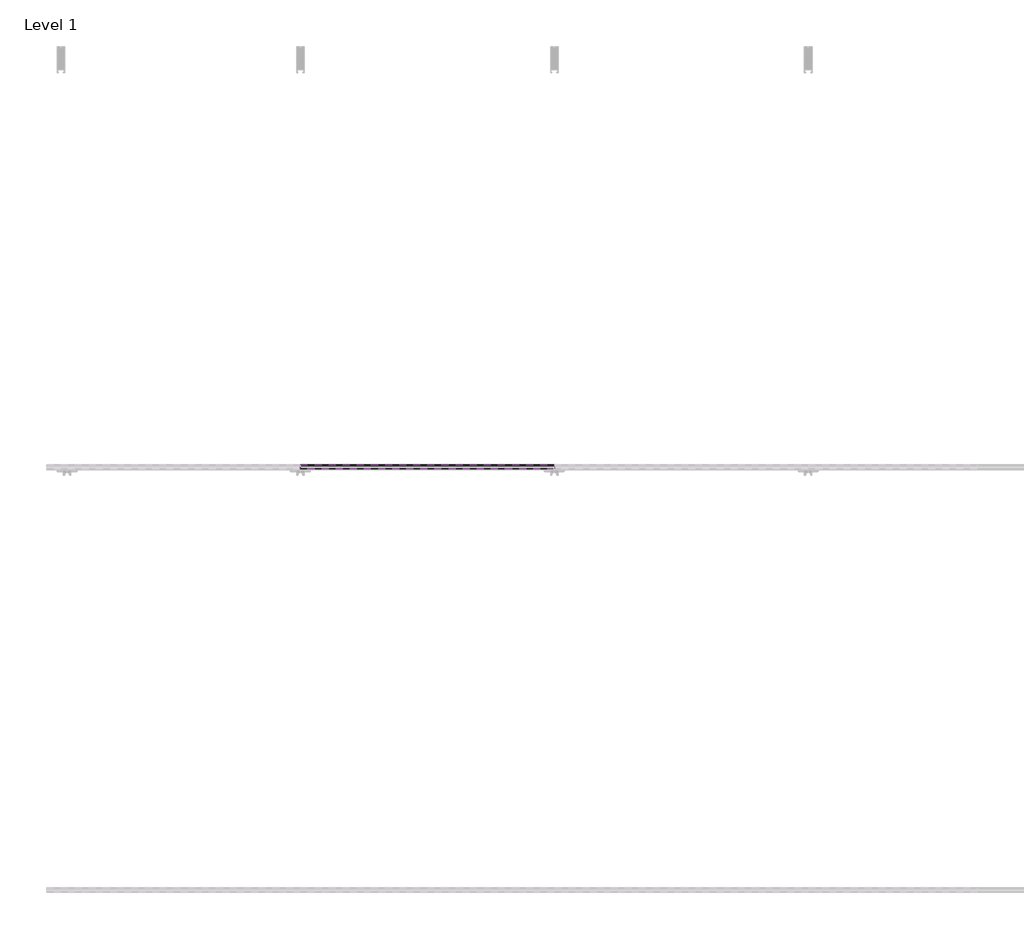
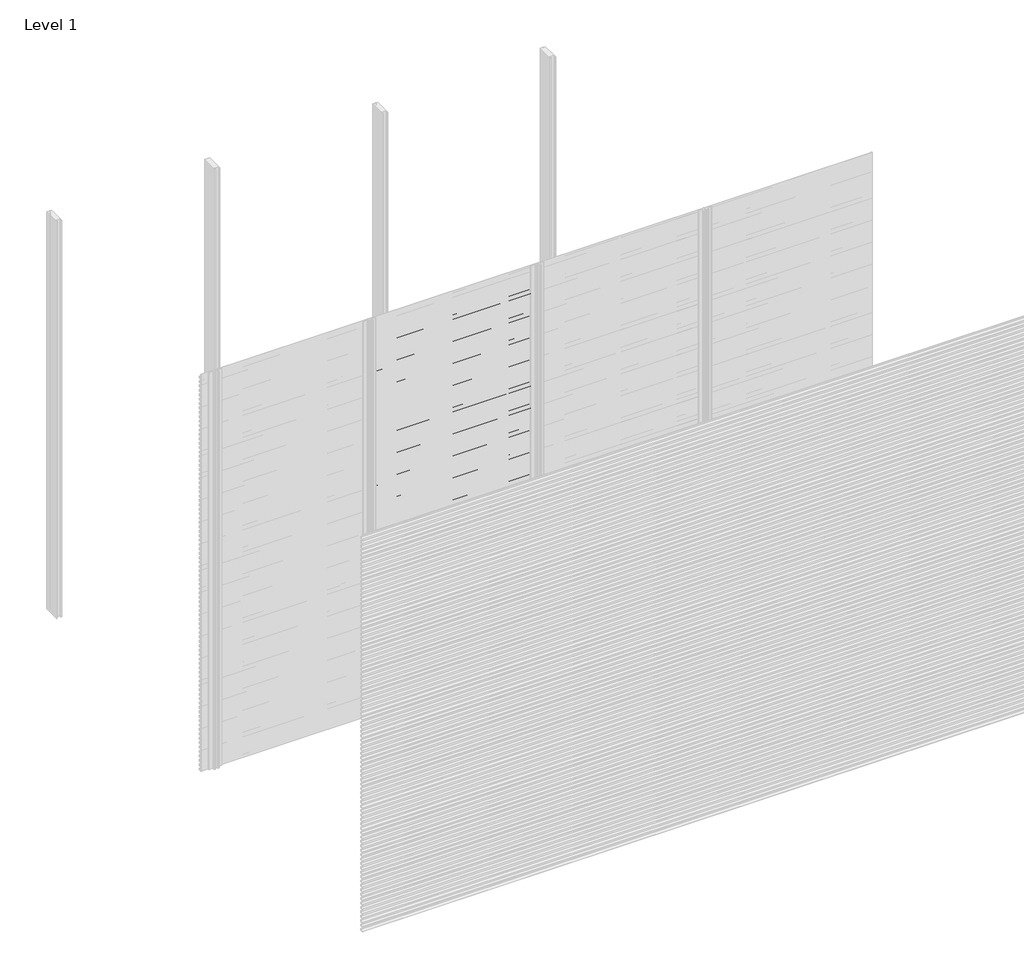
# One storey, part 6 of 77: 72 proxies.
"""IFC4 building model written with IfcOpenShell, lengths in millimetres."""

import ifcopenshell
import ifcopenshell.guid

model = None  # the IFC model being written
_history = None  # IfcOwnerHistory: only IFC2X3 demands one
_inside = {}  # id of a spatial element -> (the spatial element, [elements in it])
_under = {}  # id of a project, library or spatial element -> (it, [spatial elements below it])
_declared = {}  # id of a project -> (the project, [libraries it declares])
_typed = {}  # id of a type object -> (the type object, [elements of that type])
_made_of = {}  # id of a material, layer set ... -> (it, [elements and type objects made of it])


def new_model(schema):
    """Start an empty IFC model of exactly this schema.

    Asked for "IFC4X3", IfcOpenShell would pick the latest addendum, in which some entities
    have other attributes; the version numbers below select the first issue.
    IFC2X3 requires an IfcOwnerHistory on every rooted entity: one is made here for all.
    """
    global model, _history
    if schema == "IFC4X3":
        model = ifcopenshell.file(schema_version=(4, 3, 0, 0))
    else:
        model = ifcopenshell.file(schema=schema)
    _inside.clear()
    _under.clear()
    _declared.clear()
    _typed.clear()
    _made_of.clear()
    _history = None
    if model.schema == "IFC2X3":
        org = make("IfcOrganization", Name="unknown")
        user = make(
            "IfcPersonAndOrganization",
            ThePerson=make("IfcPerson", FamilyName="unknown"),
            TheOrganization=org,
        )
        app = make(
            "IfcApplication",
            ApplicationDeveloper=org,
            Version="unknown",
            ApplicationFullName="unknown",
            ApplicationIdentifier="unknown",
        )
        _history = make(
            "IfcOwnerHistory",
            OwningUser=user,
            OwningApplication=app,
            ChangeAction="ADDED",
            CreationDate=0,
        )
    return model


def make(cls, **values):
    """One entity of the class cls with the attributes given. An attribute that is None is left unset."""
    return model.create_entity(
        cls, **{name: value for name, value in values.items() if value is not None}
    )


def rooted(cls, **values):
    """An entity with a GlobalId (a new one), such as an element, a storey or a relation."""
    return make(cls, GlobalId=ifcopenshell.guid.new(), OwnerHistory=_history, **values)


def si_unit(unit_type, name, prefix=None):
    """IfcSIUnit, for example si_unit("LENGTHUNIT", "METRE", prefix="MILLI")."""
    return make("IfcSIUnit", UnitType=unit_type, Prefix=prefix, Name=name)


def assignment(units):
    """IfcUnitAssignment: the units of a project."""
    return None if units is None else make("IfcUnitAssignment", Units=units)


def point(xyz):
    """IfcCartesianPoint."""
    return None if xyz is None else make("IfcCartesianPoint", Coordinates=xyz)


def direction(xyz):
    """IfcDirection."""
    return None if xyz is None else make("IfcDirection", DirectionRatios=xyz)


def frame(location, z_axis=None, x_axis=None):
    """IfcAxis2Placement3D, a coordinate frame: its origin and axes. An axis left out is left unset."""
    return make(
        "IfcAxis2Placement3D",
        Location=point(location),
        Axis=direction(z_axis),
        RefDirection=direction(x_axis),
    )


def origin():
    """The frame at (0, 0, 0) with its axes left unset."""
    return frame((0.0, 0.0, 0.0))


def place(relative_to, where):
    """IfcLocalPlacement: puts the frame where relative to a parent placement (None: the world)."""
    return make(
        "IfcLocalPlacement", PlacementRelTo=relative_to, RelativePlacement=where
    )


def context(
    kind, dimensions, precision=None, world=None, true_north=None, identifier=None
):
    """IfcGeometricRepresentationContext, for example the 3D "Model" context."""
    return make(
        "IfcGeometricRepresentationContext",
        ContextIdentifier=identifier,
        ContextType=kind,
        CoordinateSpaceDimension=dimensions,
        Precision=precision,
        WorldCoordinateSystem=world,
        TrueNorth=true_north,
    )


def project(units=None, contexts=None):
    """IfcProject with its units and contexts."""
    return rooted(
        "IfcProject",
        Name="project",
        RepresentationContexts=contexts,
        UnitsInContext=assignment(units),
    )


def spatial(cls, under=None, at=None, **own):
    """A site, building, storey or space (cls), placed at a placement, below another one or the project."""
    s = rooted(cls, ObjectPlacement=at, **own)
    if under is not None:
        _under.setdefault(under.id(), (under, []))[1].append(s)
    return s


def polyline(points):
    """IfcPolyline through the points."""
    return make("IfcPolyline", Points=[point(p) for p in points])


def outline(outer, holes=None, kind="AREA"):
    """IfcArbitraryClosedProfileDef: a profile drawn as a closed curve; with holes, ...WithVoids."""
    if holes is None:
        return make("IfcArbitraryClosedProfileDef", ProfileType=kind, OuterCurve=outer)
    return make(
        "IfcArbitraryProfileDefWithVoids",
        ProfileType=kind,
        OuterCurve=outer,
        InnerCurves=holes,
    )


def extrude(swept, where, along, depth):
    """IfcExtrudedAreaSolid: the profile swept, set in the frame where, extruded along a direction by depth."""
    return make(
        "IfcExtrudedAreaSolid",
        SweptArea=swept,
        Position=where,
        ExtrudedDirection=direction(along),
        Depth=depth,
    )


def shape(context_of_items, identifier, shape_type, items):
    """IfcShapeRepresentation: the items that make up one representation, for example the "Body"."""
    return make(
        "IfcShapeRepresentation",
        ContextOfItems=context_of_items,
        RepresentationIdentifier=identifier,
        RepresentationType=shape_type,
        Items=items,
    )


def made_of(thing, what):
    """Note that an element or type object is made of a material, layer set ...; save() writes the relation."""
    if what is not None:
        _made_of.setdefault(what.id(), (what, []))[1].append(thing)
    return thing


def element(
    cls,
    number,
    at=None,
    inside=None,
    cuts=None,
    type_object=None,
    material=None,
    context=None,
    identifier="Body",
    shape_type=None,
    held_by="IfcProductDefinitionShape",
    body=None,
    shapes=None,
    **own,
):
    """One element of the class cls, such as IfcWall. Its Tag is "e" and its number.

    at: its placement. inside: the storey or other place that contains it. cuts: it is an
    opening in that element (IfcRelVoidsElement). A single representation is given by context,
    identifier, shape_type and body (its items); several are given by shapes. held_by: the class
    of the entity that holds the representations. save() writes the other relations.
    """
    e = rooted(cls, Tag="e%d" % number, ObjectPlacement=at, **own)
    if body is not None:
        shapes = [shape(context, identifier, shape_type, body)]
    if shapes is not None:
        e.Representation = make(held_by, Representations=shapes)
    if inside is not None:
        _inside.setdefault(inside.id(), (inside, []))[1].append(e)
    if cuts is not None:
        rooted(
            "IfcRelVoidsElement", RelatingBuildingElement=cuts, RelatedOpeningElement=e
        )
    if type_object is not None:
        _typed.setdefault(type_object.id(), (type_object, []))[1].append(e)
    return made_of(e, material)


def aggregate(whole, parts):
    """IfcRelAggregates: a whole, such as a stair, and the parts it consists of."""
    return rooted("IfcRelAggregates", RelatingObject=whole, RelatedObjects=parts)


def save(model, path):
    """Write the relations noted so far, then the file.

    IfcRelAggregates (storeys below a building ...), IfcRelContainedInSpatialStructure (elements
    in a storey), IfcRelDefinesByType, IfcRelAssociatesMaterial and IfcRelDeclares: one each for
    every whole, place, type object, material and project.
    """
    for whole, parts in _under.values():
        aggregate(whole, parts)
    for where, things in _inside.values():
        rooted(
            "IfcRelContainedInSpatialStructure",
            RelatedElements=things,
            RelatingStructure=where,
        )
    for kind, things in _typed.values():
        rooted("IfcRelDefinesByType", RelatedObjects=things, RelatingType=kind)
    for what, things in _made_of.values():
        rooted("IfcRelAssociatesMaterial", RelatedObjects=things, RelatingMaterial=what)
    for by, libraries in _declared.values():
        rooted("IfcRelDeclares", RelatingContext=by, RelatedDefinitions=libraries)
    model.write(path)


model = new_model("IFC4")

# Units and contexts
model_context = context("Model", 3, world=origin())
ifc_project = project(units=[si_unit("LENGTHUNIT", "METRE", prefix="MILLI")], contexts=[model_context])

# Site, building, storey
site = spatial("IfcSite", under=ifc_project)
building = spatial("IfcBuilding", under=site)
storey = spatial("IfcBuildingStorey", under=building, Name="Level 1", Elevation=0.0)

# Proxies
placement = place(None, origin())
element("IfcBuildingElementProxy", 1, Name="Wall Sweeps", at=placement, inside=storey, context=model_context, shape_type="SweptSolid", body=[
    extrude(outline(polyline([(-53978.6, 2806.0359887), (-53998.0, 2817.2366691), (-53998.0, 2830.5), (-53997.0, 2830.5), (-53997.0, 2817.8191057), (-53977.6, 2806.6185105), (-53977.6, 2793.0185105), (-53978.6, 2794.5953129), (-53978.6, 2800.4032062), (-53995.9773817, 2792.3), (-53996.4, 2793.2063078), (-53978.6, 2801.5065841), (-53978.6, 2806.0359887)])), frame((1200.0, 0.0, 0.0), z_axis=(1.0, 0.0, 0.0), x_axis=(0.0, 1.0, 0.0)), (0.0, 0.0, 1.0), 1200.0),
])
element("IfcBuildingElementProxy", 2, Name="Wall Sweeps", at=placement, inside=storey, context=model_context, shape_type="SweptSolid", body=[
    extrude(outline(polyline([(-53978.6, 2772.7359887), (-53998.0, 2783.9366691), (-53998.0, 2797.2), (-53997.0, 2797.2), (-53997.0, 2784.5191057), (-53977.6, 2773.3185105), (-53977.6, 2759.7185105), (-53978.6, 2761.2953129), (-53978.6, 2767.1032062), (-53995.9773817, 2759.0), (-53996.4, 2759.9063078), (-53978.6, 2768.2065841), (-53978.6, 2772.7359887)])), frame((1200.0, 0.0, 0.0), z_axis=(1.0, 0.0, 0.0), x_axis=(0.0, 1.0, 0.0)), (0.0, 0.0, 1.0), 1200.0),
])
element("IfcBuildingElementProxy", 3, Name="Wall Sweeps", at=placement, inside=storey, context=model_context, shape_type="SweptSolid", body=[
    extrude(outline(polyline([(-53978.6, 2739.4359887), (-53998.0, 2750.6366691), (-53998.0, 2763.9), (-53997.0, 2763.9), (-53997.0, 2751.2191057), (-53977.6, 2740.0185105), (-53977.6, 2726.4185105), (-53978.6, 2727.9953129), (-53978.6, 2733.8032062), (-53995.9773817, 2725.7), (-53996.4, 2726.6063078), (-53978.6, 2734.9065841), (-53978.6, 2739.4359887)])), frame((1200.0, 0.0, 0.0), z_axis=(1.0, 0.0, 0.0), x_axis=(0.0, 1.0, 0.0)), (0.0, 0.0, 1.0), 1200.0),
])
element("IfcBuildingElementProxy", 4, Name="Wall Sweeps", at=placement, inside=storey, context=model_context, shape_type="SweptSolid", body=[
    extrude(outline(polyline([(-53978.6, 2706.1359887), (-53998.0, 2717.3366691), (-53998.0, 2730.6), (-53997.0, 2730.6), (-53997.0, 2717.9191057), (-53977.6, 2706.7185105), (-53977.6, 2693.1185105), (-53978.6, 2694.6953129), (-53978.6, 2700.5032062), (-53995.9773817, 2692.4), (-53996.4, 2693.3063078), (-53978.6, 2701.6065841), (-53978.6, 2706.1359887)])), frame((1200.0, 0.0, 0.0), z_axis=(1.0, 0.0, 0.0), x_axis=(0.0, 1.0, 0.0)), (0.0, 0.0, 1.0), 1200.0),
])
element("IfcBuildingElementProxy", 5, Name="Wall Sweeps", at=placement, inside=storey, context=model_context, shape_type="SweptSolid", body=[
    extrude(outline(polyline([(-53978.6, 2672.8359887), (-53998.0, 2684.0366691), (-53998.0, 2697.3), (-53997.0, 2697.3), (-53997.0, 2684.6191057), (-53977.6, 2673.4185105), (-53977.6, 2659.8185105), (-53978.6, 2661.3953129), (-53978.6, 2667.2032062), (-53995.9773817, 2659.1), (-53996.4, 2660.0063078), (-53978.6, 2668.3065841), (-53978.6, 2672.8359887)])), frame((1200.0, 0.0, 0.0), z_axis=(1.0, 0.0, 0.0), x_axis=(0.0, 1.0, 0.0)), (0.0, 0.0, 1.0), 1200.0),
])
element("IfcBuildingElementProxy", 6, Name="Wall Sweeps", at=placement, inside=storey, context=model_context, shape_type="SweptSolid", body=[
    extrude(outline(polyline([(-53978.6, 2639.5359887), (-53998.0, 2650.7366691), (-53998.0, 2664.0), (-53997.0, 2664.0), (-53997.0, 2651.3191057), (-53977.6, 2640.1185105), (-53977.6, 2626.5185105), (-53978.6, 2628.0953129), (-53978.6, 2633.9032062), (-53995.9773817, 2625.8), (-53996.4, 2626.7063078), (-53978.6, 2635.0065841), (-53978.6, 2639.5359887)])), frame((1200.0, 0.0, 0.0), z_axis=(1.0, 0.0, 0.0), x_axis=(0.0, 1.0, 0.0)), (0.0, 0.0, 1.0), 1200.0),
])
element("IfcBuildingElementProxy", 7, Name="Wall Sweeps", at=placement, inside=storey, context=model_context, shape_type="SweptSolid", body=[
    extrude(outline(polyline([(-53978.6, 2606.2359887), (-53998.0, 2617.4366691), (-53998.0, 2630.7), (-53997.0, 2630.7), (-53997.0, 2618.0191057), (-53977.6, 2606.8185105), (-53977.6, 2593.2185105), (-53978.6, 2594.7953129), (-53978.6, 2600.6032062), (-53995.9773817, 2592.5), (-53996.4, 2593.4063078), (-53978.6, 2601.7065841), (-53978.6, 2606.2359887)])), frame((1200.0, 0.0, 0.0), z_axis=(1.0, 0.0, 0.0), x_axis=(0.0, 1.0, 0.0)), (0.0, 0.0, 1.0), 1200.0),
])
element("IfcBuildingElementProxy", 8, Name="Wall Sweeps", at=placement, inside=storey, context=model_context, shape_type="SweptSolid", body=[
    extrude(outline(polyline([(-53978.6, 2572.9359887), (-53998.0, 2584.1366691), (-53998.0, 2597.4), (-53997.0, 2597.4), (-53997.0, 2584.7191057), (-53977.6, 2573.5185105), (-53977.6, 2559.9185105), (-53978.6, 2561.4953129), (-53978.6, 2567.3032062), (-53995.9773817, 2559.2), (-53996.4, 2560.1063078), (-53978.6, 2568.4065841), (-53978.6, 2572.9359887)])), frame((1200.0, 0.0, 0.0), z_axis=(1.0, 0.0, 0.0), x_axis=(0.0, 1.0, 0.0)), (0.0, 0.0, 1.0), 1200.0),
])
element("IfcBuildingElementProxy", 9, Name="Wall Sweeps", at=placement, inside=storey, context=model_context, shape_type="SweptSolid", body=[
    extrude(outline(polyline([(-53978.6, 2539.6359887), (-53998.0, 2550.8366691), (-53998.0, 2564.1), (-53997.0, 2564.1), (-53997.0, 2551.4191057), (-53977.6, 2540.2185105), (-53977.6, 2526.6185105), (-53978.6, 2528.1953129), (-53978.6, 2534.0032062), (-53995.9773817, 2525.9), (-53996.4, 2526.8063078), (-53978.6, 2535.1065841), (-53978.6, 2539.6359887)])), frame((1200.0, 0.0, 0.0), z_axis=(1.0, 0.0, 0.0), x_axis=(0.0, 1.0, 0.0)), (0.0, 0.0, 1.0), 1200.0),
])
element("IfcBuildingElementProxy", 10, Name="Wall Sweeps", at=placement, inside=storey, context=model_context, shape_type="SweptSolid", body=[
    extrude(outline(polyline([(-53978.6, 2506.3359887), (-53998.0, 2517.5366691), (-53998.0, 2530.8), (-53997.0, 2530.8), (-53997.0, 2518.1191057), (-53977.6, 2506.9185105), (-53977.6, 2493.3185105), (-53978.6, 2494.8953129), (-53978.6, 2500.7032062), (-53995.9773817, 2492.6), (-53996.4, 2493.5063078), (-53978.6, 2501.8065841), (-53978.6, 2506.3359887)])), frame((1200.0, 0.0, 0.0), z_axis=(1.0, 0.0, 0.0), x_axis=(0.0, 1.0, 0.0)), (0.0, 0.0, 1.0), 1200.0),
])
element("IfcBuildingElementProxy", 11, Name="Wall Sweeps", at=placement, inside=storey, context=model_context, shape_type="SweptSolid", body=[
    extrude(outline(polyline([(-53978.6, 2473.0359887), (-53998.0, 2484.2366691), (-53998.0, 2497.5), (-53997.0, 2497.5), (-53997.0, 2484.8191057), (-53977.6, 2473.6185105), (-53977.6, 2460.0185105), (-53978.6, 2461.5953129), (-53978.6, 2467.4032062), (-53995.9773817, 2459.3), (-53996.4, 2460.2063078), (-53978.6, 2468.5065841), (-53978.6, 2473.0359887)])), frame((1200.0, 0.0, 0.0), z_axis=(1.0, 0.0, 0.0), x_axis=(0.0, 1.0, 0.0)), (0.0, 0.0, 1.0), 1200.0),
])
element("IfcBuildingElementProxy", 12, Name="Wall Sweeps", at=placement, inside=storey, context=model_context, shape_type="SweptSolid", body=[
    extrude(outline(polyline([(-53978.6, 2439.7359887), (-53998.0, 2450.9366691), (-53998.0, 2464.2), (-53997.0, 2464.2), (-53997.0, 2451.5191057), (-53977.6, 2440.3185105), (-53977.6, 2426.7185105), (-53978.6, 2428.2953129), (-53978.6, 2434.1032062), (-53995.9773817, 2426.0), (-53996.4, 2426.9063078), (-53978.6, 2435.2065841), (-53978.6, 2439.7359887)])), frame((1200.0, 0.0, 0.0), z_axis=(1.0, 0.0, 0.0), x_axis=(0.0, 1.0, 0.0)), (0.0, 0.0, 1.0), 1200.0),
])
element("IfcBuildingElementProxy", 13, Name="Wall Sweeps", at=placement, inside=storey, context=model_context, shape_type="SweptSolid", body=[
    extrude(outline(polyline([(-53978.6, 2406.4359887), (-53998.0, 2417.6366691), (-53998.0, 2430.9), (-53997.0, 2430.9), (-53997.0, 2418.2191057), (-53977.6, 2407.0185105), (-53977.6, 2393.4185105), (-53978.6, 2394.9953129), (-53978.6, 2400.8032062), (-53995.9773817, 2392.7), (-53996.4, 2393.6063078), (-53978.6, 2401.9065841), (-53978.6, 2406.4359887)])), frame((1200.0, 0.0, 0.0), z_axis=(1.0, 0.0, 0.0), x_axis=(0.0, 1.0, 0.0)), (0.0, 0.0, 1.0), 1200.0),
])
element("IfcBuildingElementProxy", 14, Name="Wall Sweeps", at=placement, inside=storey, context=model_context, shape_type="SweptSolid", body=[
    extrude(outline(polyline([(-53978.6, 2373.1359887), (-53998.0, 2384.3366691), (-53998.0, 2397.6), (-53997.0, 2397.6), (-53997.0, 2384.9191057), (-53977.6, 2373.7185105), (-53977.6, 2360.1185105), (-53978.6, 2361.6953129), (-53978.6, 2367.5032062), (-53995.9773817, 2359.4), (-53996.4, 2360.3063078), (-53978.6, 2368.6065841), (-53978.6, 2373.1359887)])), frame((1200.0, 0.0, 0.0), z_axis=(1.0, 0.0, 0.0), x_axis=(0.0, 1.0, 0.0)), (0.0, 0.0, 1.0), 1200.0),
])
element("IfcBuildingElementProxy", 15, Name="Wall Sweeps", at=placement, inside=storey, context=model_context, shape_type="SweptSolid", body=[
    extrude(outline(polyline([(-53978.6, 2339.8359887), (-53998.0, 2351.0366691), (-53998.0, 2364.3), (-53997.0, 2364.3), (-53997.0, 2351.6191057), (-53977.6, 2340.4185105), (-53977.6, 2326.8185105), (-53978.6, 2328.3953129), (-53978.6, 2334.2032062), (-53995.9773817, 2326.1), (-53996.4, 2327.0063078), (-53978.6, 2335.3065841), (-53978.6, 2339.8359887)])), frame((1200.0, 0.0, 0.0), z_axis=(1.0, 0.0, 0.0), x_axis=(0.0, 1.0, 0.0)), (0.0, 0.0, 1.0), 1200.0),
])
element("IfcBuildingElementProxy", 16, Name="Wall Sweeps", at=placement, inside=storey, context=model_context, shape_type="SweptSolid", body=[
    extrude(outline(polyline([(-53978.6, 2306.5359887), (-53998.0, 2317.7366691), (-53998.0, 2331.0), (-53997.0, 2331.0), (-53997.0, 2318.3191057), (-53977.6, 2307.1185105), (-53977.6, 2293.5185105), (-53978.6, 2295.0953129), (-53978.6, 2300.9032062), (-53995.9773817, 2292.8), (-53996.4, 2293.7063078), (-53978.6, 2302.0065841), (-53978.6, 2306.5359887)])), frame((1200.0, 0.0, 0.0), z_axis=(1.0, 0.0, 0.0), x_axis=(0.0, 1.0, 0.0)), (0.0, 0.0, 1.0), 1200.0),
])
element("IfcBuildingElementProxy", 17, Name="Wall Sweeps", at=placement, inside=storey, context=model_context, shape_type="SweptSolid", body=[
    extrude(outline(polyline([(-53978.6, 2273.2359887), (-53998.0, 2284.4366691), (-53998.0, 2297.7), (-53997.0, 2297.7), (-53997.0, 2285.0191057), (-53977.6, 2273.8185105), (-53977.6, 2260.2185105), (-53978.6, 2261.7953129), (-53978.6, 2267.6032062), (-53995.9773817, 2259.5), (-53996.4, 2260.4063078), (-53978.6, 2268.7065841), (-53978.6, 2273.2359887)])), frame((1200.0, 0.0, 0.0), z_axis=(1.0, 0.0, 0.0), x_axis=(0.0, 1.0, 0.0)), (0.0, 0.0, 1.0), 1200.0),
])
element("IfcBuildingElementProxy", 18, Name="Wall Sweeps", at=placement, inside=storey, context=model_context, shape_type="SweptSolid", body=[
    extrude(outline(polyline([(-53978.6, 2239.9359887), (-53998.0, 2251.1366691), (-53998.0, 2264.4), (-53997.0, 2264.4), (-53997.0, 2251.7191057), (-53977.6, 2240.5185105), (-53977.6, 2226.9185105), (-53978.6, 2228.4953129), (-53978.6, 2234.3032062), (-53995.9773817, 2226.2), (-53996.4, 2227.1063078), (-53978.6, 2235.4065841), (-53978.6, 2239.9359887)])), frame((1200.0, 0.0, 0.0), z_axis=(1.0, 0.0, 0.0), x_axis=(0.0, 1.0, 0.0)), (0.0, 0.0, 1.0), 1200.0),
])
element("IfcBuildingElementProxy", 19, Name="Wall Sweeps", at=placement, inside=storey, context=model_context, shape_type="SweptSolid", body=[
    extrude(outline(polyline([(-53978.6, 2206.6359887), (-53998.0, 2217.8366691), (-53998.0, 2231.1), (-53997.0, 2231.1), (-53997.0, 2218.4191057), (-53977.6, 2207.2185105), (-53977.6, 2193.6185105), (-53978.6, 2195.1953129), (-53978.6, 2201.0032062), (-53995.9773817, 2192.9), (-53996.4, 2193.8063078), (-53978.6, 2202.1065841), (-53978.6, 2206.6359887)])), frame((1200.0, 0.0, 0.0), z_axis=(1.0, 0.0, 0.0), x_axis=(0.0, 1.0, 0.0)), (0.0, 0.0, 1.0), 1200.0),
])
element("IfcBuildingElementProxy", 20, Name="Wall Sweeps", at=placement, inside=storey, context=model_context, shape_type="SweptSolid", body=[
    extrude(outline(polyline([(-53978.6, 2173.3359887), (-53998.0, 2184.5366691), (-53998.0, 2197.8), (-53997.0, 2197.8), (-53997.0, 2185.1191057), (-53977.6, 2173.9185105), (-53977.6, 2160.3185105), (-53978.6, 2161.8953129), (-53978.6, 2167.7032062), (-53995.9773817, 2159.6), (-53996.4, 2160.5063078), (-53978.6, 2168.8065841), (-53978.6, 2173.3359887)])), frame((1200.0, 0.0, 0.0), z_axis=(1.0, 0.0, 0.0), x_axis=(0.0, 1.0, 0.0)), (0.0, 0.0, 1.0), 1200.0),
])
element("IfcBuildingElementProxy", 21, Name="Wall Sweeps", at=placement, inside=storey, context=model_context, shape_type="SweptSolid", body=[
    extrude(outline(polyline([(-53978.6, 2140.0359887), (-53998.0, 2151.2366691), (-53998.0, 2164.5), (-53997.0, 2164.5), (-53997.0, 2151.8191057), (-53977.6, 2140.6185105), (-53977.6, 2127.0185105), (-53978.6, 2128.5953129), (-53978.6, 2134.4032062), (-53995.9773817, 2126.3), (-53996.4, 2127.2063078), (-53978.6, 2135.5065841), (-53978.6, 2140.0359887)])), frame((1200.0, 0.0, 0.0), z_axis=(1.0, 0.0, 0.0), x_axis=(0.0, 1.0, 0.0)), (0.0, 0.0, 1.0), 1200.0),
])
element("IfcBuildingElementProxy", 22, Name="Wall Sweeps", at=placement, inside=storey, context=model_context, shape_type="SweptSolid", body=[
    extrude(outline(polyline([(-53978.6, 2106.7359887), (-53998.0, 2117.9366691), (-53998.0, 2131.2), (-53997.0, 2131.2), (-53997.0, 2118.5191057), (-53977.6, 2107.3185105), (-53977.6, 2093.7185105), (-53978.6, 2095.2953129), (-53978.6, 2101.1032062), (-53995.9773817, 2093.0), (-53996.4, 2093.9063078), (-53978.6, 2102.2065841), (-53978.6, 2106.7359887)])), frame((1200.0, 0.0, 0.0), z_axis=(1.0, 0.0, 0.0), x_axis=(0.0, 1.0, 0.0)), (0.0, 0.0, 1.0), 1200.0),
])
element("IfcBuildingElementProxy", 23, Name="Wall Sweeps", at=placement, inside=storey, context=model_context, shape_type="SweptSolid", body=[
    extrude(outline(polyline([(-53978.6, 2073.4359887), (-53998.0, 2084.6366691), (-53998.0, 2097.9), (-53997.0, 2097.9), (-53997.0, 2085.2191057), (-53977.6, 2074.0185105), (-53977.6, 2060.4185105), (-53978.6, 2061.9953129), (-53978.6, 2067.8032062), (-53995.9773817, 2059.7), (-53996.4, 2060.6063078), (-53978.6, 2068.9065841), (-53978.6, 2073.4359887)])), frame((1200.0, 0.0, 0.0), z_axis=(1.0, 0.0, 0.0), x_axis=(0.0, 1.0, 0.0)), (0.0, 0.0, 1.0), 1200.0),
])
element("IfcBuildingElementProxy", 24, Name="Wall Sweeps", at=placement, inside=storey, context=model_context, shape_type="SweptSolid", body=[
    extrude(outline(polyline([(-53978.6, 2040.1359887), (-53998.0, 2051.3366691), (-53998.0, 2064.6), (-53997.0, 2064.6), (-53997.0, 2051.9191057), (-53977.6, 2040.7185105), (-53977.6, 2027.1185105), (-53978.6, 2028.6953129), (-53978.6, 2034.5032062), (-53995.9773817, 2026.4), (-53996.4, 2027.3063078), (-53978.6, 2035.6065841), (-53978.6, 2040.1359887)])), frame((1200.0, 0.0, 0.0), z_axis=(1.0, 0.0, 0.0), x_axis=(0.0, 1.0, 0.0)), (0.0, 0.0, 1.0), 1200.0),
])
element("IfcBuildingElementProxy", 25, Name="Wall Sweeps", at=placement, inside=storey, context=model_context, shape_type="SweptSolid", body=[
    extrude(outline(polyline([(-53978.6, 2006.8359887), (-53998.0, 2018.0366691), (-53998.0, 2031.3), (-53997.0, 2031.3), (-53997.0, 2018.6191057), (-53977.6, 2007.4185105), (-53977.6, 1993.8185105), (-53978.6, 1995.3953129), (-53978.6, 2001.2032062), (-53995.9773817, 1993.1), (-53996.4, 1994.0063078), (-53978.6, 2002.3065841), (-53978.6, 2006.8359887)])), frame((1200.0, 0.0, 0.0), z_axis=(1.0, 0.0, 0.0), x_axis=(0.0, 1.0, 0.0)), (0.0, 0.0, 1.0), 1200.0),
])
element("IfcBuildingElementProxy", 26, Name="Wall Sweeps", at=placement, inside=storey, context=model_context, shape_type="SweptSolid", body=[
    extrude(outline(polyline([(-53978.6, 1973.5359887), (-53998.0, 1984.7366691), (-53998.0, 1998.0), (-53997.0, 1998.0), (-53997.0, 1985.3191057), (-53977.6, 1974.1185105), (-53977.6, 1960.5185105), (-53978.6, 1962.0953129), (-53978.6, 1967.9032062), (-53995.9773817, 1959.8), (-53996.4, 1960.7063078), (-53978.6, 1969.0065841), (-53978.6, 1973.5359887)])), frame((1200.0, 0.0, 0.0), z_axis=(1.0, 0.0, 0.0), x_axis=(0.0, 1.0, 0.0)), (0.0, 0.0, 1.0), 1200.0),
])
element("IfcBuildingElementProxy", 27, Name="Wall Sweeps", at=placement, inside=storey, context=model_context, shape_type="SweptSolid", body=[
    extrude(outline(polyline([(-53978.6, 1940.2359887), (-53998.0, 1951.4366691), (-53998.0, 1964.7), (-53997.0, 1964.7), (-53997.0, 1952.0191057), (-53977.6, 1940.8185105), (-53977.6, 1927.2185105), (-53978.6, 1928.7953129), (-53978.6, 1934.6032062), (-53995.9773817, 1926.5), (-53996.4, 1927.4063078), (-53978.6, 1935.7065841), (-53978.6, 1940.2359887)])), frame((1200.0, 0.0, 0.0), z_axis=(1.0, 0.0, 0.0), x_axis=(0.0, 1.0, 0.0)), (0.0, 0.0, 1.0), 1200.0),
])
element("IfcBuildingElementProxy", 28, Name="Wall Sweeps", at=placement, inside=storey, context=model_context, shape_type="SweptSolid", body=[
    extrude(outline(polyline([(-53978.6, 1906.9359887), (-53998.0, 1918.1366691), (-53998.0, 1931.4), (-53997.0, 1931.4), (-53997.0, 1918.7191057), (-53977.6, 1907.5185105), (-53977.6, 1893.9185105), (-53978.6, 1895.4953129), (-53978.6, 1901.3032062), (-53995.9773817, 1893.2), (-53996.4, 1894.1063078), (-53978.6, 1902.4065841), (-53978.6, 1906.9359887)])), frame((1200.0, 0.0, 0.0), z_axis=(1.0, 0.0, 0.0), x_axis=(0.0, 1.0, 0.0)), (0.0, 0.0, 1.0), 1200.0),
])
element("IfcBuildingElementProxy", 29, Name="Wall Sweeps", at=placement, inside=storey, context=model_context, shape_type="SweptSolid", body=[
    extrude(outline(polyline([(-53978.6, 1873.6359887), (-53998.0, 1884.8366691), (-53998.0, 1898.1), (-53997.0, 1898.1), (-53997.0, 1885.4191057), (-53977.6, 1874.2185105), (-53977.6, 1860.6185105), (-53978.6, 1862.1953129), (-53978.6, 1868.0032062), (-53995.9773817, 1859.9), (-53996.4, 1860.8063078), (-53978.6, 1869.1065841), (-53978.6, 1873.6359887)])), frame((1200.0, 0.0, 0.0), z_axis=(1.0, 0.0, 0.0), x_axis=(0.0, 1.0, 0.0)), (0.0, 0.0, 1.0), 1200.0),
])
element("IfcBuildingElementProxy", 30, Name="Wall Sweeps", at=placement, inside=storey, context=model_context, shape_type="SweptSolid", body=[
    extrude(outline(polyline([(-53978.6, 1840.3359887), (-53998.0, 1851.5366691), (-53998.0, 1864.8), (-53997.0, 1864.8), (-53997.0, 1852.1191057), (-53977.6, 1840.9185105), (-53977.6, 1827.3185105), (-53978.6, 1828.8953129), (-53978.6, 1834.7032062), (-53995.9773817, 1826.6), (-53996.4, 1827.5063078), (-53978.6, 1835.8065841), (-53978.6, 1840.3359887)])), frame((1200.0, 0.0, 0.0), z_axis=(1.0, 0.0, 0.0), x_axis=(0.0, 1.0, 0.0)), (0.0, 0.0, 1.0), 1200.0),
])
element("IfcBuildingElementProxy", 31, Name="Wall Sweeps", at=placement, inside=storey, context=model_context, shape_type="SweptSolid", body=[
    extrude(outline(polyline([(-53978.6, 1807.0359887), (-53998.0, 1818.2366691), (-53998.0, 1831.5), (-53997.0, 1831.5), (-53997.0, 1818.8191057), (-53977.6, 1807.6185105), (-53977.6, 1794.0185105), (-53978.6, 1795.5953129), (-53978.6, 1801.4032062), (-53995.9773817, 1793.3), (-53996.4, 1794.2063078), (-53978.6, 1802.5065841), (-53978.6, 1807.0359887)])), frame((1200.0, 0.0, 0.0), z_axis=(1.0, 0.0, 0.0), x_axis=(0.0, 1.0, 0.0)), (0.0, 0.0, 1.0), 1200.0),
])
element("IfcBuildingElementProxy", 32, Name="Wall Sweeps", at=placement, inside=storey, context=model_context, shape_type="SweptSolid", body=[
    extrude(outline(polyline([(-53978.6, 1773.7359887), (-53998.0, 1784.9366691), (-53998.0, 1798.2), (-53997.0, 1798.2), (-53997.0, 1785.5191057), (-53977.6, 1774.3185105), (-53977.6, 1760.7185105), (-53978.6, 1762.2953129), (-53978.6, 1768.1032062), (-53995.9773817, 1760.0), (-53996.4, 1760.9063078), (-53978.6, 1769.2065841), (-53978.6, 1773.7359887)])), frame((1200.0, 0.0, 0.0), z_axis=(1.0, 0.0, 0.0), x_axis=(0.0, 1.0, 0.0)), (0.0, 0.0, 1.0), 1200.0),
])
element("IfcBuildingElementProxy", 33, Name="Wall Sweeps", at=placement, inside=storey, context=model_context, shape_type="SweptSolid", body=[
    extrude(outline(polyline([(-53978.6, 1740.4359887), (-53998.0, 1751.6366691), (-53998.0, 1764.9), (-53997.0, 1764.9), (-53997.0, 1752.2191057), (-53977.6, 1741.0185105), (-53977.6, 1727.4185105), (-53978.6, 1728.9953129), (-53978.6, 1734.8032062), (-53995.9773817, 1726.7), (-53996.4, 1727.6063078), (-53978.6, 1735.9065841), (-53978.6, 1740.4359887)])), frame((1200.0, 0.0, 0.0), z_axis=(1.0, 0.0, 0.0), x_axis=(0.0, 1.0, 0.0)), (0.0, 0.0, 1.0), 1200.0),
])
element("IfcBuildingElementProxy", 34, Name="Wall Sweeps", at=placement, inside=storey, context=model_context, shape_type="SweptSolid", body=[
    extrude(outline(polyline([(-53978.6, 1707.1359887), (-53998.0, 1718.3366691), (-53998.0, 1731.6), (-53997.0, 1731.6), (-53997.0, 1718.9191057), (-53977.6, 1707.7185105), (-53977.6, 1694.1185105), (-53978.6, 1695.6953129), (-53978.6, 1701.5032062), (-53995.9773817, 1693.4), (-53996.4, 1694.3063078), (-53978.6, 1702.6065841), (-53978.6, 1707.1359887)])), frame((1200.0, 0.0, 0.0), z_axis=(1.0, 0.0, 0.0), x_axis=(0.0, 1.0, 0.0)), (0.0, 0.0, 1.0), 1200.0),
])
element("IfcBuildingElementProxy", 35, Name="Wall Sweeps", at=placement, inside=storey, context=model_context, shape_type="SweptSolid", body=[
    extrude(outline(polyline([(-53978.6, 1673.8359887), (-53998.0, 1685.0366691), (-53998.0, 1698.3), (-53997.0, 1698.3), (-53997.0, 1685.6191057), (-53977.6, 1674.4185105), (-53977.6, 1660.8185105), (-53978.6, 1662.3953129), (-53978.6, 1668.2032062), (-53995.9773817, 1660.1), (-53996.4, 1661.0063078), (-53978.6, 1669.3065841), (-53978.6, 1673.8359887)])), frame((1200.0, 0.0, 0.0), z_axis=(1.0, 0.0, 0.0), x_axis=(0.0, 1.0, 0.0)), (0.0, 0.0, 1.0), 1200.0),
])
element("IfcBuildingElementProxy", 36, Name="Wall Sweeps", at=placement, inside=storey, context=model_context, shape_type="SweptSolid", body=[
    extrude(outline(polyline([(-53978.6, 1640.5359887), (-53998.0, 1651.7366691), (-53998.0, 1665.0), (-53997.0, 1665.0), (-53997.0, 1652.3191057), (-53977.6, 1641.1185105), (-53977.6, 1627.5185105), (-53978.6, 1629.0953129), (-53978.6, 1634.9032062), (-53995.9773817, 1626.8), (-53996.4, 1627.7063078), (-53978.6, 1636.0065841), (-53978.6, 1640.5359887)])), frame((1200.0, 0.0, 0.0), z_axis=(1.0, 0.0, 0.0), x_axis=(0.0, 1.0, 0.0)), (0.0, 0.0, 1.0), 1200.0),
])
element("IfcBuildingElementProxy", 37, Name="Wall Sweeps", at=placement, inside=storey, context=model_context, shape_type="SweptSolid", body=[
    extrude(outline(polyline([(-53978.6, 1607.2359887), (-53998.0, 1618.4366691), (-53998.0, 1631.7), (-53997.0, 1631.7), (-53997.0, 1619.0191057), (-53977.6, 1607.8185105), (-53977.6, 1594.2185105), (-53978.6, 1595.7953129), (-53978.6, 1601.6032062), (-53995.9773817, 1593.5), (-53996.4, 1594.4063078), (-53978.6, 1602.7065841), (-53978.6, 1607.2359887)])), frame((1200.0, 0.0, 0.0), z_axis=(1.0, 0.0, 0.0), x_axis=(0.0, 1.0, 0.0)), (0.0, 0.0, 1.0), 1200.0),
])
element("IfcBuildingElementProxy", 38, Name="Wall Sweeps", at=placement, inside=storey, context=model_context, shape_type="SweptSolid", body=[
    extrude(outline(polyline([(-53978.6, 1573.9359887), (-53998.0, 1585.1366691), (-53998.0, 1598.4), (-53997.0, 1598.4), (-53997.0, 1585.7191057), (-53977.6, 1574.5185105), (-53977.6, 1560.9185105), (-53978.6, 1562.4953129), (-53978.6, 1568.3032062), (-53995.9773817, 1560.2), (-53996.4, 1561.1063078), (-53978.6, 1569.4065841), (-53978.6, 1573.9359887)])), frame((1200.0, 0.0, 0.0), z_axis=(1.0, 0.0, 0.0), x_axis=(0.0, 1.0, 0.0)), (0.0, 0.0, 1.0), 1200.0),
])
element("IfcBuildingElementProxy", 39, Name="Wall Sweeps", at=placement, inside=storey, context=model_context, shape_type="SweptSolid", body=[
    extrude(outline(polyline([(-53978.6, 1540.6359887), (-53998.0, 1551.8366691), (-53998.0, 1565.1), (-53997.0, 1565.1), (-53997.0, 1552.4191057), (-53977.6, 1541.2185105), (-53977.6, 1527.6185105), (-53978.6, 1529.1953129), (-53978.6, 1535.0032062), (-53995.9773817, 1526.9), (-53996.4, 1527.8063078), (-53978.6, 1536.1065841), (-53978.6, 1540.6359887)])), frame((1200.0, 0.0, 0.0), z_axis=(1.0, 0.0, 0.0), x_axis=(0.0, 1.0, 0.0)), (0.0, 0.0, 1.0), 1200.0),
])
element("IfcBuildingElementProxy", 40, Name="Wall Sweeps", at=placement, inside=storey, context=model_context, shape_type="SweptSolid", body=[
    extrude(outline(polyline([(-53978.6, 1507.3359887), (-53998.0, 1518.5366691), (-53998.0, 1531.8), (-53997.0, 1531.8), (-53997.0, 1519.1191057), (-53977.6, 1507.9185105), (-53977.6, 1494.3185105), (-53978.6, 1495.8953129), (-53978.6, 1501.7032062), (-53995.9773817, 1493.6), (-53996.4, 1494.5063078), (-53978.6, 1502.8065841), (-53978.6, 1507.3359887)])), frame((1200.0, 0.0, 0.0), z_axis=(1.0, 0.0, 0.0), x_axis=(0.0, 1.0, 0.0)), (0.0, 0.0, 1.0), 1200.0),
])
element("IfcBuildingElementProxy", 41, Name="Wall Sweeps", at=placement, inside=storey, context=model_context, shape_type="SweptSolid", body=[
    extrude(outline(polyline([(-53978.6, 1474.0359887), (-53998.0, 1485.2366691), (-53998.0, 1498.5), (-53997.0, 1498.5), (-53997.0, 1485.8191057), (-53977.6, 1474.6185105), (-53977.6, 1461.0185105), (-53978.6, 1462.5953129), (-53978.6, 1468.4032062), (-53995.9773817, 1460.3), (-53996.4, 1461.2063078), (-53978.6, 1469.5065841), (-53978.6, 1474.0359887)])), frame((1200.0, 0.0, 0.0), z_axis=(1.0, 0.0, 0.0), x_axis=(0.0, 1.0, 0.0)), (0.0, 0.0, 1.0), 1200.0),
])
element("IfcBuildingElementProxy", 42, Name="Wall Sweeps", at=placement, inside=storey, context=model_context, shape_type="SweptSolid", body=[
    extrude(outline(polyline([(-53978.6, 1440.7359887), (-53998.0, 1451.9366691), (-53998.0, 1465.2), (-53997.0, 1465.2), (-53997.0, 1452.5191057), (-53977.6, 1441.3185105), (-53977.6, 1427.7185105), (-53978.6, 1429.2953129), (-53978.6, 1435.1032062), (-53995.9773817, 1427.0), (-53996.4, 1427.9063078), (-53978.6, 1436.2065841), (-53978.6, 1440.7359887)])), frame((1200.0, 0.0, 0.0), z_axis=(1.0, 0.0, 0.0), x_axis=(0.0, 1.0, 0.0)), (0.0, 0.0, 1.0), 1200.0),
])
element("IfcBuildingElementProxy", 43, Name="Wall Sweeps", at=placement, inside=storey, context=model_context, shape_type="SweptSolid", body=[
    extrude(outline(polyline([(-53978.6, 1407.4359887), (-53998.0, 1418.6366691), (-53998.0, 1431.9), (-53997.0, 1431.9), (-53997.0, 1419.2191057), (-53977.6, 1408.0185105), (-53977.6, 1394.4185105), (-53978.6, 1395.9953129), (-53978.6, 1401.8032062), (-53995.9773817, 1393.7), (-53996.4, 1394.6063078), (-53978.6, 1402.9065841), (-53978.6, 1407.4359887)])), frame((1200.0, 0.0, 0.0), z_axis=(1.0, 0.0, 0.0), x_axis=(0.0, 1.0, 0.0)), (0.0, 0.0, 1.0), 1200.0),
])
element("IfcBuildingElementProxy", 44, Name="Wall Sweeps", at=placement, inside=storey, context=model_context, shape_type="SweptSolid", body=[
    extrude(outline(polyline([(-53978.6, 1374.1359887), (-53998.0, 1385.3366691), (-53998.0, 1398.6), (-53997.0, 1398.6), (-53997.0, 1385.9191057), (-53977.6, 1374.7185105), (-53977.6, 1361.1185105), (-53978.6, 1362.6953129), (-53978.6, 1368.5032062), (-53995.9773817, 1360.4), (-53996.4, 1361.3063078), (-53978.6, 1369.6065841), (-53978.6, 1374.1359887)])), frame((1200.0, 0.0, 0.0), z_axis=(1.0, 0.0, 0.0), x_axis=(0.0, 1.0, 0.0)), (0.0, 0.0, 1.0), 1200.0),
])
element("IfcBuildingElementProxy", 45, Name="Wall Sweeps", at=placement, inside=storey, context=model_context, shape_type="SweptSolid", body=[
    extrude(outline(polyline([(-53978.6, 1340.8359887), (-53998.0, 1352.0366691), (-53998.0, 1365.3), (-53997.0, 1365.3), (-53997.0, 1352.6191057), (-53977.6, 1341.4185105), (-53977.6, 1327.8185105), (-53978.6, 1329.3953129), (-53978.6, 1335.2032062), (-53995.9773817, 1327.1), (-53996.4, 1328.0063078), (-53978.6, 1336.3065841), (-53978.6, 1340.8359887)])), frame((1200.0, 0.0, 0.0), z_axis=(1.0, 0.0, 0.0), x_axis=(0.0, 1.0, 0.0)), (0.0, 0.0, 1.0), 1200.0),
])
element("IfcBuildingElementProxy", 46, Name="Wall Sweeps", at=placement, inside=storey, context=model_context, shape_type="SweptSolid", body=[
    extrude(outline(polyline([(-53978.6, 1307.5359887), (-53998.0, 1318.7366691), (-53998.0, 1332.0), (-53997.0, 1332.0), (-53997.0, 1319.3191057), (-53977.6, 1308.1185105), (-53977.6, 1294.5185105), (-53978.6, 1296.0953129), (-53978.6, 1301.9032062), (-53995.9773817, 1293.8), (-53996.4, 1294.7063078), (-53978.6, 1303.0065841), (-53978.6, 1307.5359887)])), frame((1200.0, 0.0, 0.0), z_axis=(1.0, 0.0, 0.0), x_axis=(0.0, 1.0, 0.0)), (0.0, 0.0, 1.0), 1200.0),
])
element("IfcBuildingElementProxy", 47, Name="Wall Sweeps", at=placement, inside=storey, context=model_context, shape_type="SweptSolid", body=[
    extrude(outline(polyline([(-53978.6, 1274.2359887), (-53998.0, 1285.4366691), (-53998.0, 1298.7), (-53997.0, 1298.7), (-53997.0, 1286.0191057), (-53977.6, 1274.8185105), (-53977.6, 1261.2185105), (-53978.6, 1262.7953129), (-53978.6, 1268.6032062), (-53995.9773817, 1260.5), (-53996.4, 1261.4063078), (-53978.6, 1269.7065841), (-53978.6, 1274.2359887)])), frame((1200.0, 0.0, 0.0), z_axis=(1.0, 0.0, 0.0), x_axis=(0.0, 1.0, 0.0)), (0.0, 0.0, 1.0), 1200.0),
])
element("IfcBuildingElementProxy", 48, Name="Wall Sweeps", at=placement, inside=storey, context=model_context, shape_type="SweptSolid", body=[
    extrude(outline(polyline([(-53978.6, 1240.9359887), (-53998.0, 1252.1366691), (-53998.0, 1265.4), (-53997.0, 1265.4), (-53997.0, 1252.7191057), (-53977.6, 1241.5185105), (-53977.6, 1227.9185105), (-53978.6, 1229.4953129), (-53978.6, 1235.3032062), (-53995.9773817, 1227.2), (-53996.4, 1228.1063078), (-53978.6, 1236.4065841), (-53978.6, 1240.9359887)])), frame((1200.0, 0.0, 0.0), z_axis=(1.0, 0.0, 0.0), x_axis=(0.0, 1.0, 0.0)), (0.0, 0.0, 1.0), 1200.0),
])
element("IfcBuildingElementProxy", 49, Name="Wall Sweeps", at=placement, inside=storey, context=model_context, shape_type="SweptSolid", body=[
    extrude(outline(polyline([(-53978.6, 1207.6359887), (-53998.0, 1218.8366691), (-53998.0, 1232.1), (-53997.0, 1232.1), (-53997.0, 1219.4191057), (-53977.6, 1208.2185105), (-53977.6, 1194.6185105), (-53978.6, 1196.1953129), (-53978.6, 1202.0032062), (-53995.9773817, 1193.9), (-53996.4, 1194.8063078), (-53978.6, 1203.1065841), (-53978.6, 1207.6359887)])), frame((1200.0, 0.0, 0.0), z_axis=(1.0, 0.0, 0.0), x_axis=(0.0, 1.0, 0.0)), (0.0, 0.0, 1.0), 1200.0),
])
element("IfcBuildingElementProxy", 50, Name="Wall Sweeps", at=placement, inside=storey, context=model_context, shape_type="SweptSolid", body=[
    extrude(outline(polyline([(-53978.6, 1174.3359887), (-53998.0, 1185.5366691), (-53998.0, 1198.8), (-53997.0, 1198.8), (-53997.0, 1186.1191057), (-53977.6, 1174.9185105), (-53977.6, 1161.3185105), (-53978.6, 1162.8953129), (-53978.6, 1168.7032062), (-53995.9773817, 1160.6), (-53996.4, 1161.5063078), (-53978.6, 1169.8065841), (-53978.6, 1174.3359887)])), frame((1200.0, 0.0, 0.0), z_axis=(1.0, 0.0, 0.0), x_axis=(0.0, 1.0, 0.0)), (0.0, 0.0, 1.0), 1200.0),
])
element("IfcBuildingElementProxy", 51, Name="Wall Sweeps", at=placement, inside=storey, context=model_context, shape_type="SweptSolid", body=[
    extrude(outline(polyline([(-53978.6, 1141.0359887), (-53998.0, 1152.2366691), (-53998.0, 1165.5), (-53997.0, 1165.5), (-53997.0, 1152.8191057), (-53977.6, 1141.6185105), (-53977.6, 1128.0185105), (-53978.6, 1129.5953129), (-53978.6, 1135.4032062), (-53995.9773817, 1127.3), (-53996.4, 1128.2063078), (-53978.6, 1136.5065841), (-53978.6, 1141.0359887)])), frame((1200.0, 0.0, 0.0), z_axis=(1.0, 0.0, 0.0), x_axis=(0.0, 1.0, 0.0)), (0.0, 0.0, 1.0), 1200.0),
])
element("IfcBuildingElementProxy", 52, Name="Wall Sweeps", at=placement, inside=storey, context=model_context, shape_type="SweptSolid", body=[
    extrude(outline(polyline([(-53978.6, 1107.7359887), (-53998.0, 1118.9366691), (-53998.0, 1132.2), (-53997.0, 1132.2), (-53997.0, 1119.5191057), (-53977.6, 1108.3185105), (-53977.6, 1094.7185105), (-53978.6, 1096.2953129), (-53978.6, 1102.1032062), (-53995.9773817, 1094.0), (-53996.4, 1094.9063078), (-53978.6, 1103.2065841), (-53978.6, 1107.7359887)])), frame((1200.0, 0.0, 0.0), z_axis=(1.0, 0.0, 0.0), x_axis=(0.0, 1.0, 0.0)), (0.0, 0.0, 1.0), 1200.0),
])
element("IfcBuildingElementProxy", 53, Name="Wall Sweeps", at=placement, inside=storey, context=model_context, shape_type="SweptSolid", body=[
    extrude(outline(polyline([(-53978.6, 1074.4359887), (-53998.0, 1085.6366691), (-53998.0, 1098.9), (-53997.0, 1098.9), (-53997.0, 1086.2191057), (-53977.6, 1075.0185105), (-53977.6, 1061.4185105), (-53978.6, 1062.9953129), (-53978.6, 1068.8032062), (-53995.9773817, 1060.7), (-53996.4, 1061.6063078), (-53978.6, 1069.9065841), (-53978.6, 1074.4359887)])), frame((1200.0, 0.0, 0.0), z_axis=(1.0, 0.0, 0.0), x_axis=(0.0, 1.0, 0.0)), (0.0, 0.0, 1.0), 1200.0),
])
element("IfcBuildingElementProxy", 54, Name="Wall Sweeps", at=placement, inside=storey, context=model_context, shape_type="SweptSolid", body=[
    extrude(outline(polyline([(-53978.6, 1041.1359887), (-53998.0, 1052.3366691), (-53998.0, 1065.6), (-53997.0, 1065.6), (-53997.0, 1052.9191057), (-53977.6, 1041.7185105), (-53977.6, 1028.1185105), (-53978.6, 1029.6953129), (-53978.6, 1035.5032062), (-53995.9773817, 1027.4), (-53996.4, 1028.3063078), (-53978.6, 1036.6065841), (-53978.6, 1041.1359887)])), frame((1200.0, 0.0, 0.0), z_axis=(1.0, 0.0, 0.0), x_axis=(0.0, 1.0, 0.0)), (0.0, 0.0, 1.0), 1200.0),
])
element("IfcBuildingElementProxy", 55, Name="Wall Sweeps", at=placement, inside=storey, context=model_context, shape_type="SweptSolid", body=[
    extrude(outline(polyline([(-53978.6, 1007.8359887), (-53998.0, 1019.0366691), (-53998.0, 1032.3), (-53997.0, 1032.3), (-53997.0, 1019.6191057), (-53977.6, 1008.4185105), (-53977.6, 994.8185105), (-53978.6, 996.3953129), (-53978.6, 1002.2032062), (-53995.9773817, 994.1), (-53996.4, 995.0063078), (-53978.6, 1003.3065841), (-53978.6, 1007.8359887)])), frame((1200.0, 0.0, 0.0), z_axis=(1.0, 0.0, 0.0), x_axis=(0.0, 1.0, 0.0)), (0.0, 0.0, 1.0), 1200.0),
])
element("IfcBuildingElementProxy", 56, Name="Wall Sweeps", at=placement, inside=storey, context=model_context, shape_type="SweptSolid", body=[
    extrude(outline(polyline([(-53978.6, 974.5359887), (-53998.0, 985.7366691), (-53998.0, 999.0), (-53997.0, 999.0), (-53997.0, 986.3191057), (-53977.6, 975.1185105), (-53977.6, 961.5185105), (-53978.6, 963.0953129), (-53978.6, 968.9032062), (-53995.9773817, 960.8), (-53996.4, 961.7063078), (-53978.6, 970.0065841), (-53978.6, 974.5359887)])), frame((1200.0, 0.0, 0.0), z_axis=(1.0, 0.0, 0.0), x_axis=(0.0, 1.0, 0.0)), (0.0, 0.0, 1.0), 1200.0),
])
element("IfcBuildingElementProxy", 57, Name="Wall Sweeps", at=placement, inside=storey, context=model_context, shape_type="SweptSolid", body=[
    extrude(outline(polyline([(-53978.6, 941.2359887), (-53998.0, 952.4366691), (-53998.0, 965.7), (-53997.0, 965.7), (-53997.0, 953.0191057), (-53977.6, 941.8185105), (-53977.6, 928.2185105), (-53978.6, 929.7953129), (-53978.6, 935.6032062), (-53995.9773817, 927.5), (-53996.4, 928.4063078), (-53978.6, 936.7065841), (-53978.6, 941.2359887)])), frame((1200.0, 0.0, 0.0), z_axis=(1.0, 0.0, 0.0), x_axis=(0.0, 1.0, 0.0)), (0.0, 0.0, 1.0), 1200.0),
])
element("IfcBuildingElementProxy", 58, Name="Wall Sweeps", at=placement, inside=storey, context=model_context, shape_type="SweptSolid", body=[
    extrude(outline(polyline([(-53978.6, 907.9359887), (-53998.0, 919.1366691), (-53998.0, 932.4), (-53997.0, 932.4), (-53997.0, 919.7191057), (-53977.6, 908.5185105), (-53977.6, 894.9185105), (-53978.6, 896.4953129), (-53978.6, 902.3032062), (-53995.9773817, 894.2), (-53996.4, 895.1063078), (-53978.6, 903.4065841), (-53978.6, 907.9359887)])), frame((1200.0, 0.0, 0.0), z_axis=(1.0, 0.0, 0.0), x_axis=(0.0, 1.0, 0.0)), (0.0, 0.0, 1.0), 1200.0),
])
element("IfcBuildingElementProxy", 59, Name="Wall Sweeps", at=placement, inside=storey, context=model_context, shape_type="SweptSolid", body=[
    extrude(outline(polyline([(-53978.6, 874.6359887), (-53998.0, 885.8366691), (-53998.0, 899.1), (-53997.0, 899.1), (-53997.0, 886.4191057), (-53977.6, 875.2185105), (-53977.6, 861.6185105), (-53978.6, 863.1953129), (-53978.6, 869.0032062), (-53995.9773817, 860.9), (-53996.4, 861.8063078), (-53978.6, 870.1065841), (-53978.6, 874.6359887)])), frame((1200.0, 0.0, 0.0), z_axis=(1.0, 0.0, 0.0), x_axis=(0.0, 1.0, 0.0)), (0.0, 0.0, 1.0), 1200.0),
])
element("IfcBuildingElementProxy", 60, Name="Wall Sweeps", at=placement, inside=storey, context=model_context, shape_type="SweptSolid", body=[
    extrude(outline(polyline([(-53978.6, 841.3359887), (-53998.0, 852.5366691), (-53998.0, 865.8), (-53997.0, 865.8), (-53997.0, 853.1191057), (-53977.6, 841.9185105), (-53977.6, 828.3185105), (-53978.6, 829.8953129), (-53978.6, 835.7032062), (-53995.9773817, 827.6), (-53996.4, 828.5063078), (-53978.6, 836.8065841), (-53978.6, 841.3359887)])), frame((1200.0, 0.0, 0.0), z_axis=(1.0, 0.0, 0.0), x_axis=(0.0, 1.0, 0.0)), (0.0, 0.0, 1.0), 1200.0),
])
element("IfcBuildingElementProxy", 61, Name="Wall Sweeps", at=placement, inside=storey, context=model_context, shape_type="SweptSolid", body=[
    extrude(outline(polyline([(-53978.6, 808.0359887), (-53998.0, 819.2366691), (-53998.0, 832.5), (-53997.0, 832.5), (-53997.0, 819.8191057), (-53977.6, 808.6185105), (-53977.6, 795.0185105), (-53978.6, 796.5953129), (-53978.6, 802.4032062), (-53995.9773817, 794.3), (-53996.4, 795.2063078), (-53978.6, 803.5065841), (-53978.6, 808.0359887)])), frame((1200.0, 0.0, 0.0), z_axis=(1.0, 0.0, 0.0), x_axis=(0.0, 1.0, 0.0)), (0.0, 0.0, 1.0), 1200.0),
])
element("IfcBuildingElementProxy", 62, Name="Wall Sweeps", at=placement, inside=storey, context=model_context, shape_type="SweptSolid", body=[
    extrude(outline(polyline([(-53978.6, 774.7359887), (-53998.0, 785.9366691), (-53998.0, 799.2), (-53997.0, 799.2), (-53997.0, 786.5191057), (-53977.6, 775.3185105), (-53977.6, 761.7185105), (-53978.6, 763.2953129), (-53978.6, 769.1032062), (-53995.9773817, 761.0), (-53996.4, 761.9063078), (-53978.6, 770.2065841), (-53978.6, 774.7359887)])), frame((1200.0, 0.0, 0.0), z_axis=(1.0, 0.0, 0.0), x_axis=(0.0, 1.0, 0.0)), (0.0, 0.0, 1.0), 1200.0),
])
element("IfcBuildingElementProxy", 63, Name="Wall Sweeps", at=placement, inside=storey, context=model_context, shape_type="SweptSolid", body=[
    extrude(outline(polyline([(-53978.6, 741.4359887), (-53998.0, 752.6366691), (-53998.0, 765.9), (-53997.0, 765.9), (-53997.0, 753.2191057), (-53977.6, 742.0185105), (-53977.6, 728.4185105), (-53978.6, 729.9953129), (-53978.6, 735.8032062), (-53995.9773817, 727.7), (-53996.4, 728.6063078), (-53978.6, 736.9065841), (-53978.6, 741.4359887)])), frame((1200.0, 0.0, 0.0), z_axis=(1.0, 0.0, 0.0), x_axis=(0.0, 1.0, 0.0)), (0.0, 0.0, 1.0), 1200.0),
])
element("IfcBuildingElementProxy", 64, Name="Wall Sweeps", at=placement, inside=storey, context=model_context, shape_type="SweptSolid", body=[
    extrude(outline(polyline([(-53978.6, 708.1359887), (-53998.0, 719.3366691), (-53998.0, 732.6), (-53997.0, 732.6), (-53997.0, 719.9191057), (-53977.6, 708.7185105), (-53977.6, 695.1185105), (-53978.6, 696.6953129), (-53978.6, 702.5032062), (-53995.9773817, 694.4), (-53996.4, 695.3063078), (-53978.6, 703.6065841), (-53978.6, 708.1359887)])), frame((1200.0, 0.0, 0.0), z_axis=(1.0, 0.0, 0.0), x_axis=(0.0, 1.0, 0.0)), (0.0, 0.0, 1.0), 1200.0),
])
element("IfcBuildingElementProxy", 65, Name="Wall Sweeps", at=placement, inside=storey, context=model_context, shape_type="SweptSolid", body=[
    extrude(outline(polyline([(-53978.6, 674.8359887), (-53998.0, 686.0366691), (-53998.0, 699.3), (-53997.0, 699.3), (-53997.0, 686.6191057), (-53977.6, 675.4185105), (-53977.6, 661.8185105), (-53978.6, 663.3953129), (-53978.6, 669.2032062), (-53995.9773817, 661.1), (-53996.4, 662.0063078), (-53978.6, 670.3065841), (-53978.6, 674.8359887)])), frame((1200.0, 0.0, 0.0), z_axis=(1.0, 0.0, 0.0), x_axis=(0.0, 1.0, 0.0)), (0.0, 0.0, 1.0), 1200.0),
])
element("IfcBuildingElementProxy", 66, Name="Wall Sweeps", at=placement, inside=storey, context=model_context, shape_type="SweptSolid", body=[
    extrude(outline(polyline([(-53978.6, 641.5359887), (-53998.0, 652.7366691), (-53998.0, 666.0), (-53997.0, 666.0), (-53997.0, 653.3191057), (-53977.6, 642.1185105), (-53977.6, 628.5185105), (-53978.6, 630.0953129), (-53978.6, 635.9032062), (-53995.9773817, 627.8), (-53996.4, 628.7063078), (-53978.6, 637.0065841), (-53978.6, 641.5359887)])), frame((1200.0, 0.0, 0.0), z_axis=(1.0, 0.0, 0.0), x_axis=(0.0, 1.0, 0.0)), (0.0, 0.0, 1.0), 1200.0),
])
element("IfcBuildingElementProxy", 67, Name="Wall Sweeps", at=placement, inside=storey, context=model_context, shape_type="SweptSolid", body=[
    extrude(outline(polyline([(-53978.6, 608.2359887), (-53998.0, 619.4366691), (-53998.0, 632.7), (-53997.0, 632.7), (-53997.0, 620.0191057), (-53977.6, 608.8185105), (-53977.6, 595.2185105), (-53978.6, 596.7953129), (-53978.6, 602.6032062), (-53995.9773817, 594.5), (-53996.4, 595.4063078), (-53978.6, 603.7065841), (-53978.6, 608.2359887)])), frame((1200.0, 0.0, 0.0), z_axis=(1.0, 0.0, 0.0), x_axis=(0.0, 1.0, 0.0)), (0.0, 0.0, 1.0), 1200.0),
])
element("IfcBuildingElementProxy", 68, Name="Wall Sweeps", at=placement, inside=storey, context=model_context, shape_type="SweptSolid", body=[
    extrude(outline(polyline([(-53978.6, 574.9359887), (-53998.0, 586.1366691), (-53998.0, 599.4), (-53997.0, 599.4), (-53997.0, 586.7191057), (-53977.6, 575.5185105), (-53977.6, 561.9185105), (-53978.6, 563.4953129), (-53978.6, 569.3032062), (-53995.9773817, 561.2), (-53996.4, 562.1063078), (-53978.6, 570.4065841), (-53978.6, 574.9359887)])), frame((1200.0, 0.0, 0.0), z_axis=(1.0, 0.0, 0.0), x_axis=(0.0, 1.0, 0.0)), (0.0, 0.0, 1.0), 1200.0),
])
element("IfcBuildingElementProxy", 69, Name="Wall Sweeps", at=placement, inside=storey, context=model_context, shape_type="SweptSolid", body=[
    extrude(outline(polyline([(-53978.6, 541.6359887), (-53998.0, 552.8366691), (-53998.0, 566.1), (-53997.0, 566.1), (-53997.0, 553.4191057), (-53977.6, 542.2185105), (-53977.6, 528.6185105), (-53978.6, 530.1953129), (-53978.6, 536.0032062), (-53995.9773817, 527.9), (-53996.4, 528.8063078), (-53978.6, 537.1065841), (-53978.6, 541.6359887)])), frame((1200.0, 0.0, 0.0), z_axis=(1.0, 0.0, 0.0), x_axis=(0.0, 1.0, 0.0)), (0.0, 0.0, 1.0), 1200.0),
])
element("IfcBuildingElementProxy", 70, Name="Wall Sweeps", at=placement, inside=storey, context=model_context, shape_type="SweptSolid", body=[
    extrude(outline(polyline([(-53978.6, 508.3359887), (-53998.0, 519.5366691), (-53998.0, 532.8), (-53997.0, 532.8), (-53997.0, 520.1191057), (-53977.6, 508.9185105), (-53977.6, 495.3185105), (-53978.6, 496.8953129), (-53978.6, 502.7032062), (-53995.9773817, 494.6), (-53996.4, 495.5063078), (-53978.6, 503.8065841), (-53978.6, 508.3359887)])), frame((1200.0, 0.0, 0.0), z_axis=(1.0, 0.0, 0.0), x_axis=(0.0, 1.0, 0.0)), (0.0, 0.0, 1.0), 1200.0),
])
element("IfcBuildingElementProxy", 71, Name="Wall Sweeps", at=placement, inside=storey, context=model_context, shape_type="SweptSolid", body=[
    extrude(outline(polyline([(-53978.6, 475.0359887), (-53998.0, 486.2366691), (-53998.0, 499.5), (-53997.0, 499.5), (-53997.0, 486.8191057), (-53977.6, 475.6185105), (-53977.6, 462.0185105), (-53978.6, 463.5953129), (-53978.6, 469.4032062), (-53995.9773817, 461.3), (-53996.4, 462.2063078), (-53978.6, 470.5065841), (-53978.6, 475.0359887)])), frame((1200.0, 0.0, 0.0), z_axis=(1.0, 0.0, 0.0), x_axis=(0.0, 1.0, 0.0)), (0.0, 0.0, 1.0), 1200.0),
])
element("IfcBuildingElementProxy", 72, Name="Wall Sweeps", at=placement, inside=storey, context=model_context, shape_type="SweptSolid", body=[
    extrude(outline(polyline([(-53978.6, 441.7359887), (-53998.0, 452.9366691), (-53998.0, 466.2), (-53997.0, 466.2), (-53997.0, 453.5191057), (-53977.6, 442.3185105), (-53977.6, 428.7185105), (-53978.6, 430.2953129), (-53978.6, 436.1032062), (-53995.9773817, 428.0), (-53996.4, 428.9063078), (-53978.6, 437.2065841), (-53978.6, 441.7359887)])), frame((1200.0, 0.0, 0.0), z_axis=(1.0, 0.0, 0.0), x_axis=(0.0, 1.0, 0.0)), (0.0, 0.0, 1.0), 1200.0),
])

save(model, "model.ifc")
